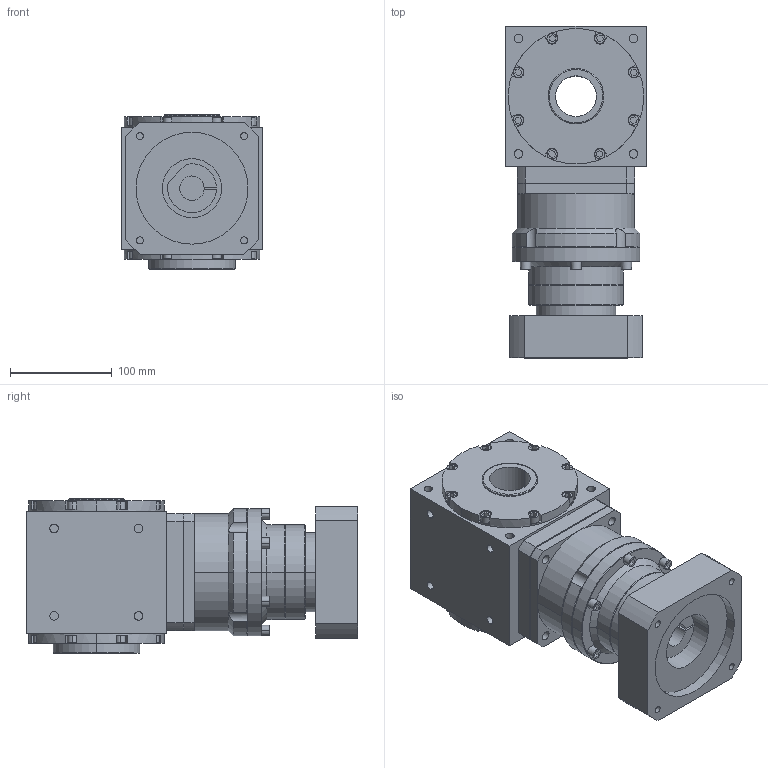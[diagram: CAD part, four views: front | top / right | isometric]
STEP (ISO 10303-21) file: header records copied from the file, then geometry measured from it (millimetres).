
FILE_DESCRIPTION (( 'STEP AP203' ), '1' );
FILE_NAME ('AAW135AS-L2-RF 24-110-145-M8.STEP', '2024-12-14T07:51:51', ( '' ), ( '' ), 'SwSTEP 2.0', 'SolidWorks 2021', '' );
FILE_SCHEMA (( 'CONFIG_CONTROL_DESIGN' ));
Length unit declared in the file: millimetre
Products named in the file (3): AAW135AS-RF; VRB-115-L2-S2-P1 24-110-145-M8; AAW135AS-L2-RF 24-110-145-M8
Assembly tree (2 placements, depth 2):
  AAW135AS-L2-RF 24-110-145-M8
    AAW135AS-RF
    VRB-115-L2-S2-P1 24-110-145-M8
Bounding box: 138 x 326 x 151.5 mm (x, y, z)
Volume: 4523145.2 mm3; surface area: 305273.6 mm2
Topology: 2 solids, 2 shells, 584 faces, 1389 edges, 896 vertices
Faces by surface type: plane 318, cylinder 204, cone 52, bspline 10
Entity records: 17723 total; most frequent: CARTESIAN_POINT 3501, DIRECTION 3034, ORIENTED_EDGE 2774, EDGE_CURVE 1387, AXIS2_PLACEMENT_3D 1103, VERTEX_POINT 896, VECTOR 828, LINE 828
